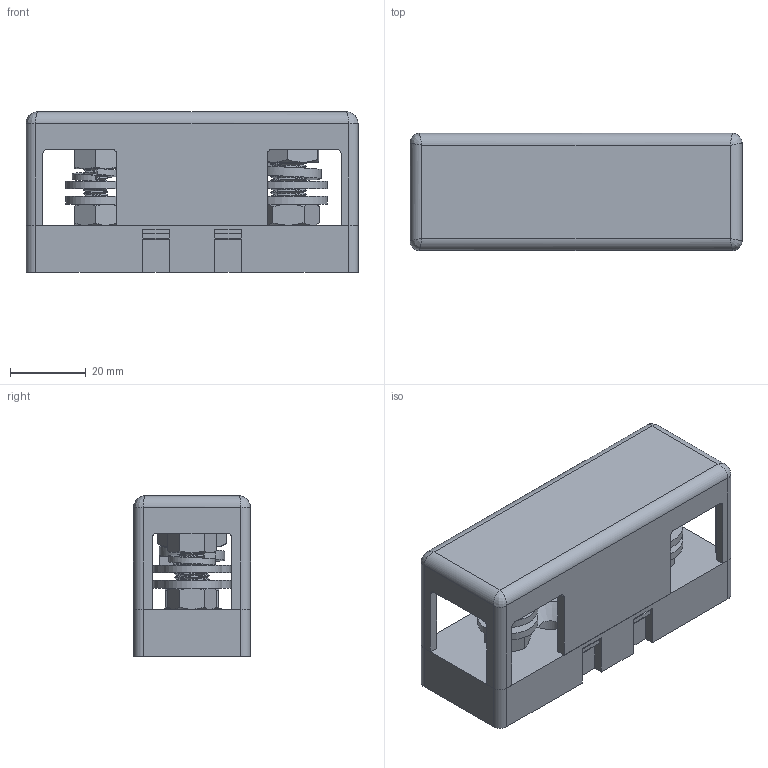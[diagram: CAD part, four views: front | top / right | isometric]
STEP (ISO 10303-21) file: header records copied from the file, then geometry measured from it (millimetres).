
FILE_DESCRIPTION(/* description */ (''),/* implementation_level */ '2;1');
FILE_NAME(/* name */ 'C:\Users\Hani\Desktop\work\BLC-08-GT\BLC-08-GTA.stp',/* time_stamp */ '2021-07-06T14:06:53-07:00',/* author */ ('Hani'),/* organization */ (''),/* preprocessor_version */ 'ST-DEVELOPER v17',/* originating_system */ 'Autodesk Inventor 2019',/* authorisation */ '');
FILE_SCHEMA (('AUTOMOTIVE_DESIGN { 1 0 10303 214 3 1 1 }'));
Products named in the file (13): BLC-08-GTA; BLC-08-GT; .250-28 Bolt; .375-24 Bolt; .250-28 HEX NUT; .250 SAE Washer; .250 Lock Washer; .250-28 Sealing Nut; .375-24 Thin Hex Nut; .375 SAE Washer; .375 Lock Washer; .375-24 Thin Sealing Nut; BLC-08-GTC
Assembly tree (14 placements, depth 2):
  BLC-08-GTA
    BLC-08-GT
    .250-28 Bolt
    .375-24 Bolt
    .250-28 HEX NUT
    .250 SAE Washer  x2
    .250 Lock Washer
    .250-28 Sealing Nut
    .375-24 Thin Hex Nut
    .375 SAE Washer  x2
    .375 Lock Washer
    .375-24 Thin Sealing Nut
    BLC-08-GTC
Bounding box: 87.88 x 30.99 x 42.45 mm (x, y, z)
Volume: 55250.9 mm3; surface area: 33005.6 mm2
Topology: 14 solids, 14 shells, 694 faces, 1858 edges, 1205 vertices
Faces by surface type: plane 260, cylinder 255, bspline 94, cone 83, torus 2
Full cylindrical faces by diameter (mm): 1.905 x8, 5.172 x39, 5.359 x1, 6.096 x2, 6.35 x44, 7.137 x2, 8.15 x34, 8.382 x1, 9.525 x37, 10.312 x2, 15.875 x2, 20.625 x2
Entity records: 37699 total; most frequent: CARTESIAN_POINT 21685, ORIENTED_EDGE 3660, DIRECTION 2706, EDGE_CURVE 1830, VERTEX_POINT 1189, AXIS2_PLACEMENT_3D 911, LINE 884, VECTOR 884
